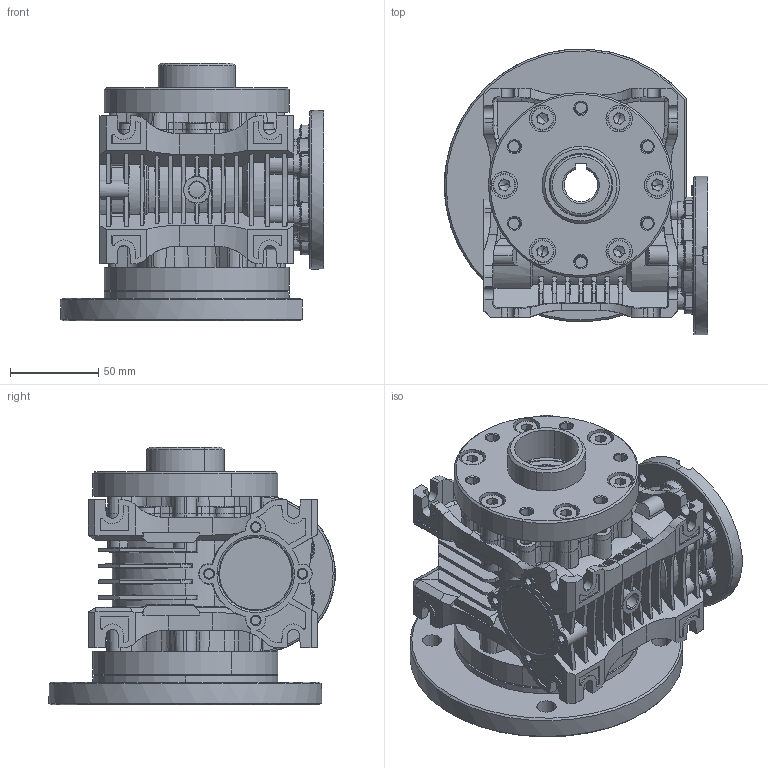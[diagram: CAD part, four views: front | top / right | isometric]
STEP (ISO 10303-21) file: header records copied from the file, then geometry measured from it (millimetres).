
FILE_DESCRIPTION (( 'STEP AP203' ), '1' );
FILE_NAME ('MRP-40_90_11_SO-1_KM-1_3D.STEP', '2024-10-21T12:34:34', ( '' ), ( '' ), 'SwSTEP 2.0', 'SolidWorks 2022', '' );
FILE_SCHEMA (( 'CONFIG_CONTROL_DESIGN' ));
Products named in the file (1): MRP-40_90_11_SO-1_KM-1_3D
Bounding box: 149.5 x 162.5 x 146.5 mm (x, y, z)
Volume: 1155093 mm3; surface area: 267094.9 mm2
Topology: 1 solids, 74 shells, 3677 faces, 9221 edges, 5735 vertices
Faces by surface type: plane 1278, cone 915, cylinder 648, bspline 500, torus 254, sphere 82
Entity records: 130443 total; most frequent: CARTESIAN_POINT 46200, ORIENTED_EDGE 18294, DIRECTION 17100, EDGE_CURVE 9147, AXIS2_PLACEMENT_3D 6698, VERTEX_POINT 5735, EDGE_LOOP 3894, VECTOR 3704
